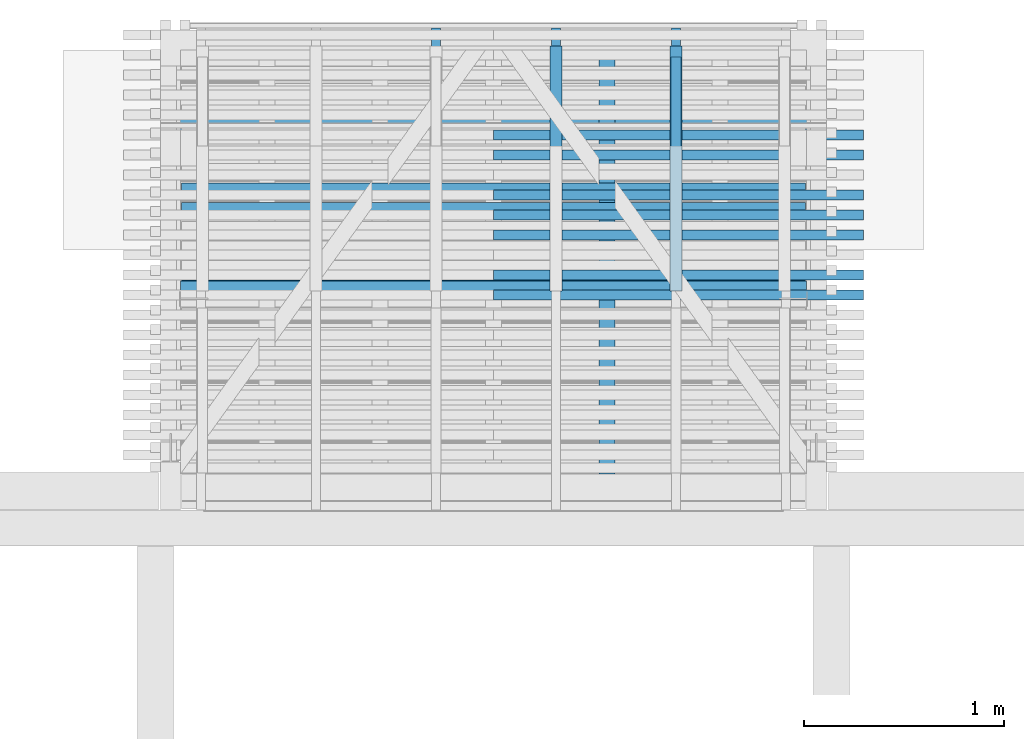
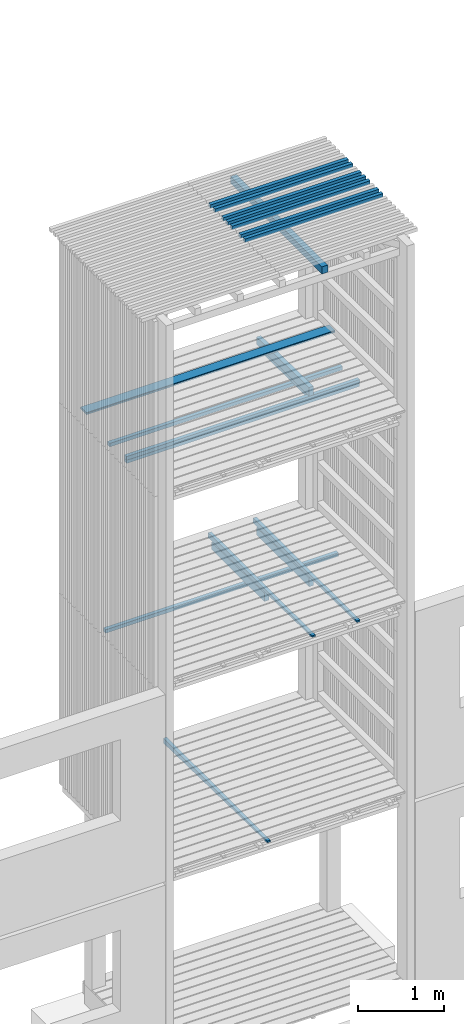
# One storey, part 25 of 182: 20 beams.
"""IFC2X3 building model written with IfcOpenShell, lengths in metres."""

from ifc_helpers import new_model, si_unit, frame, origin, place, context, project, spatial, faceted_brep, element, save


model = new_model("IFC2X3")

# Units and contexts
model_context = context("Model", 3, precision=1e-06, world=origin())
ifc_project = project(units=[si_unit("LENGTHUNIT", "METRE"), si_unit("PLANEANGLEUNIT", "RADIAN")], contexts=[model_context])

# Site, building, storey
site = spatial("IfcSite", under=ifc_project, CompositionType="ELEMENT")
building = spatial("IfcBuilding", under=site, CompositionType="ELEMENT")
storey = spatial("IfcBuildingStorey", under=building, Name="vs", CompositionType="ELEMENT", Elevation=-0.85)

# Beams
placement = place(None, origin())
beam_1_placement = place(placement, frame((6.829197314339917, 11.845077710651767, 10.47999999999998), z_axis=(0.0, 0.0, 1.0), x_axis=(-1.0, 0.0, 0.0)))
element("IfcBeam", 1, at=beam_1_placement, inside=storey, Name="Bardage", context=model_context, shape_type="Brep", body=[
    faceted_brep([(-3e-15, 0.025000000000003, 0.025000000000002), (-3e-15, -0.024999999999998, 0.025000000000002), (1.849999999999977, -0.024999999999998, 0.025000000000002), (1.849999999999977, 0.025000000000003, 0.025000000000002), (1.849999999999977, -0.024999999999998, 0.025000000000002), (-3e-15, -0.024999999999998, 0.025000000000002), (-3e-15, -0.024999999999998, -0.024999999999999), (1.849999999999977, -0.024999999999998, -0.024999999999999), (-3e-15, -0.024999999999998, 0.025000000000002), (-3e-15, 0.025000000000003, 0.025000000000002), (-3e-15, 0.025000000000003, -0.024999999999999), (-3e-15, -0.024999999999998, -0.024999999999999), (-3e-15, 0.025000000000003, -0.024999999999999), (-3e-15, 0.025000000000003, 0.025000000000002), (1.849999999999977, 0.025000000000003, 0.025000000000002), (1.849999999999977, 0.025000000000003, -0.024999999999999), (1.849999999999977, -0.024999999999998, -0.024999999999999), (-3e-15, -0.024999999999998, -0.024999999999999), (-3e-15, 0.025000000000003, -0.024999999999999), (1.849999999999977, 0.025000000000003, -0.024999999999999), (1.849999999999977, -0.024999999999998, 0.025000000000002), (1.849999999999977, -0.024999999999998, -0.024999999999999), (1.849999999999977, 0.025000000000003, -0.024999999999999), (1.849999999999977, 0.025000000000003, 0.025000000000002)], [[[0, 1, 2, 3]], [[4, 5, 6, 7]], [[8, 9, 10, 11]], [[12, 13, 14, 15]], [[16, 17, 18, 19]], [[20, 21, 22, 23]]]),
])
beam_2_placement = place(placement, frame((6.829197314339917, 12.34507771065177, 10.47999999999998), z_axis=(0.0, 0.0, 1.0), x_axis=(-1.0, 0.0, 0.0)))
element("IfcBeam", 2, at=beam_2_placement, inside=storey, Name="Bardage", context=model_context, shape_type="Brep", body=[
    faceted_brep([(-3e-15, 0.025000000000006, 0.025000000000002), (-3e-15, -0.024999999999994, 0.025000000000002), (1.849999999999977, -0.024999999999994, 0.025000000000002), (1.849999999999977, 0.025000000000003, 0.025000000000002), (1.849999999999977, -0.024999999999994, 0.025000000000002), (-3e-15, -0.024999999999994, 0.025000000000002), (-3e-15, -0.024999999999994, -0.024999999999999), (1.849999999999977, -0.024999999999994, -0.024999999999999), (-3e-15, -0.024999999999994, 0.025000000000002), (-3e-15, 0.025000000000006, 0.025000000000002), (-3e-15, 0.025000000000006, -0.024999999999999), (-3e-15, -0.024999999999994, -0.024999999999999), (-3e-15, 0.025000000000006, -0.024999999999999), (-3e-15, 0.025000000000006, 0.025000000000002), (1.849999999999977, 0.025000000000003, 0.025000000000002), (1.849999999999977, 0.025000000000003, -0.024999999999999), (1.849999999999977, -0.024999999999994, -0.024999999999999), (-3e-15, -0.024999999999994, -0.024999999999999), (-3e-15, 0.025000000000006, -0.024999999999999), (1.849999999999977, 0.025000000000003, -0.024999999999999), (1.849999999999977, -0.024999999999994, 0.025000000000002), (1.849999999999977, -0.024999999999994, -0.024999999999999), (1.849999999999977, 0.025000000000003, -0.024999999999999), (1.849999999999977, 0.025000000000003, 0.025000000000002)], [[[0, 1, 2, 3]], [[4, 5, 6, 7]], [[8, 9, 10, 11]], [[12, 13, 14, 15]], [[16, 17, 18, 19]], [[20, 21, 22, 23]]]),
])
beam_3_placement = place(placement, frame((6.829197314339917, 11.645077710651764, 10.47999999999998), z_axis=(0.0, 0.0, 1.0), x_axis=(-1.0, 0.0, 0.0)))
element("IfcBeam", 3, at=beam_3_placement, inside=storey, Name="Bardage", context=model_context, shape_type="Brep", body=[
    faceted_brep([(-3e-15, 0.024999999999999, 0.025000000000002), (-3e-15, -0.025000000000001, 0.025000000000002), (1.849999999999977, -0.025000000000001, 0.025000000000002), (1.849999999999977, 0.024999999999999, 0.025000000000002), (1.849999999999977, -0.025000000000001, 0.025000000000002), (-3e-15, -0.025000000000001, 0.025000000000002), (-3e-15, -0.025000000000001, -0.024999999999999), (1.849999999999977, -0.025000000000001, -0.024999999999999), (-3e-15, -0.025000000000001, 0.025000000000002), (-3e-15, 0.024999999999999, 0.025000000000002), (-3e-15, 0.024999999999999, -0.024999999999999), (-3e-15, -0.025000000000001, -0.024999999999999), (-3e-15, 0.024999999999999, -0.024999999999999), (-3e-15, 0.024999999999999, 0.025000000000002), (1.849999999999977, 0.024999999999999, 0.025000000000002), (1.849999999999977, 0.024999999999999, -0.024999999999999), (1.849999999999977, -0.025000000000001, -0.024999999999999), (-3e-15, -0.025000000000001, -0.024999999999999), (-3e-15, 0.024999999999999, -0.024999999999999), (1.849999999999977, 0.024999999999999, -0.024999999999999), (1.849999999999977, -0.025000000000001, 0.025000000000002), (1.849999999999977, -0.025000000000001, -0.024999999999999), (1.849999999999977, 0.024999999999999, -0.024999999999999), (1.849999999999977, 0.024999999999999, 0.025000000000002)], [[[0, 1, 2, 3]], [[4, 5, 6, 7]], [[8, 9, 10, 11]], [[12, 13, 14, 15]], [[16, 17, 18, 19]], [[20, 21, 22, 23]]]),
])
beam_4_placement = place(placement, frame((5.892197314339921, 11.565077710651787, 8.00424999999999), z_axis=(0.0, 0.0, 1.0), x_axis=(1.2e-14, 1.0, 0.0)))
element("IfcBeam", 4, at=beam_4_placement, inside=storey, Name="Solive", context=model_context, shape_type="Brep", body=[
    faceted_brep([(0.0, -0.029999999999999, -0.061849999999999), (1.225000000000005, -0.029999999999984, -0.061849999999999), (1.225000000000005, -0.029999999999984, 0.037349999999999), (0.0, -0.029999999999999, 0.061849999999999), (-1e-15, 0.030000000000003, -0.061849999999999), (1.225000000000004, 0.030000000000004, -0.061849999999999), (1.225000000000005, -0.029999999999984, -0.061849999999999), (0.0, -0.029999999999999, -0.061849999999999), (-1e-15, 0.030000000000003, 0.061850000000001), (-1e-15, 0.030000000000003, -0.061849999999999), (0.0, -0.029999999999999, -0.061849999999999), (0.0, -0.029999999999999, 0.061849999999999), (1.225000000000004, 0.030000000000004, -0.061849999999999), (-1e-15, 0.030000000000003, -0.061849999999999), (-1e-15, 0.030000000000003, 0.061850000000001), (1.225000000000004, 0.030000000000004, 0.037349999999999), (1.225000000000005, -0.029999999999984, 0.037349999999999), (1.225000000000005, -0.029999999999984, -0.061849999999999), (1.225000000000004, 0.030000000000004, -0.061849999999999), (1.225000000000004, 0.030000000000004, 0.037349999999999), (0.0, -0.029999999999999, 0.061849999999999), (1.225000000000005, -0.029999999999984, 0.037349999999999), (1.225000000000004, 0.030000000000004, 0.037349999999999), (-1e-15, 0.030000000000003, 0.061850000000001)], [[[0, 1, 2, 3]], [[4, 5, 6, 7]], [[8, 9, 10, 11]], [[12, 13, 14, 15]], [[16, 17, 18, 19]], [[20, 21, 22, 23]]]),
])
beam_5_placement = place(placement, frame((5.892197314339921, 11.565077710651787, 5.304249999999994), z_axis=(0.0, 0.0, 1.0), x_axis=(0.0, 1.0, 0.0)))
element("IfcBeam", 5, at=beam_5_placement, inside=storey, Name="Solive", context=model_context, shape_type="Brep", body=[
    faceted_brep([(0.0, -0.029999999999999, -0.061849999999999), (1.225000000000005, -0.029999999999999, -0.061849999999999), (1.225000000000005, -0.029999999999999, 0.03735), (0.0, -0.029999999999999, 0.06185), (0.0, 0.030000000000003, -0.061849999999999), (1.225000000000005, 0.029999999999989, -0.061849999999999), (1.225000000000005, -0.029999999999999, -0.061849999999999), (0.0, -0.029999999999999, -0.061849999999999), (0.0, 0.030000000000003, 0.061850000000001), (0.0, 0.030000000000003, -0.061849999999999), (0.0, -0.029999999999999, -0.061849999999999), (0.0, -0.029999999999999, 0.06185), (1.225000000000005, 0.029999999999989, -0.061849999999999), (0.0, 0.030000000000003, -0.061849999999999), (0.0, 0.030000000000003, 0.061850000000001), (1.225000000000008, 0.029999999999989, 0.03735), (1.225000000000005, -0.029999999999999, 0.03735), (1.225000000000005, -0.029999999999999, -0.061849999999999), (1.225000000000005, 0.029999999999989, -0.061849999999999), (1.225000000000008, 0.029999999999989, 0.03735), (0.0, -0.029999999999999, 0.06185), (1.225000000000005, -0.029999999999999, 0.03735), (1.225000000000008, 0.029999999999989, 0.03735), (0.0, 0.030000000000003, 0.061850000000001)], [[[0, 1, 2, 3]], [[4, 5, 6, 7]], [[8, 9, 10, 11]], [[12, 13, 14, 15]], [[16, 17, 18, 19]], [[20, 21, 22, 23]]]),
])
beam_6_placement = place(placement, frame((5.292197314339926, 11.565077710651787, 5.304249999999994), z_axis=(0.0, 0.0, 1.0), x_axis=(0.0, 1.0, 0.0)))
element("IfcBeam", 6, at=beam_6_placement, inside=storey, Name="Solive", context=model_context, shape_type="Brep", body=[
    faceted_brep([(0.0, -0.030000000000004, -0.061849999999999), (1.225000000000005, -0.030000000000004, -0.061849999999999), (1.225000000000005, -0.030000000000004, 0.03735), (0.0, -0.030000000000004, 0.06185), (0.0, 0.029999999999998, 0.061850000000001), (0.0, 0.029999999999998, -0.061849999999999), (0.0, -0.030000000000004, -0.061849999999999), (0.0, -0.030000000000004, 0.06185), (0.0, -0.030000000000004, -0.061849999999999), (0.0, 0.029999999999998, -0.061849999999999), (1.225000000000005, 0.029999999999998, -0.061849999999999), (1.225000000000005, -0.030000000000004, -0.061849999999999), (1.225000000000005, 0.029999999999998, -0.061849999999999), (0.0, 0.029999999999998, -0.061849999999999), (0.0, 0.029999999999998, 0.061850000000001), (1.225000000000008, 0.029999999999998, 0.03735), (1.225000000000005, -0.030000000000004, 0.03735), (1.225000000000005, -0.030000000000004, -0.061849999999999), (1.225000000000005, 0.029999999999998, -0.061849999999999), (1.225000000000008, 0.029999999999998, 0.03735), (0.0, -0.030000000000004, 0.06185), (1.225000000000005, -0.030000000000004, 0.03735), (1.225000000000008, 0.029999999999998, 0.03735), (0.0, 0.029999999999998, 0.061850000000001)], [[[0, 1, 2, 3]], [[4, 5, 6, 7]], [[8, 9, 10, 11]], [[12, 13, 14, 15]], [[16, 17, 18, 19]], [[20, 21, 22, 23]]]),
])
beam_7_placement = place(placement, frame((6.829197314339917, 11.945077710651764, 10.47999999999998), z_axis=(0.0, 0.0, 1.0), x_axis=(-1.0, 0.0, 0.0)))
element("IfcBeam", 7, at=beam_7_placement, inside=storey, Name="Bardage", context=model_context, shape_type="Brep", body=[
    faceted_brep([(-3e-15, 0.024999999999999, 0.025000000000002), (-3e-15, -0.025000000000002, 0.025000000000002), (1.849999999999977, -0.025000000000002, 0.025000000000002), (1.849999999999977, 0.024999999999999, 0.025000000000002), (1.849999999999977, -0.025000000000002, 0.025000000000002), (-3e-15, -0.025000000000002, 0.025000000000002), (-3e-15, -0.025000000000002, -0.024999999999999), (1.849999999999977, -0.025000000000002, -0.024999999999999), (-3e-15, -0.025000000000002, 0.025000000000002), (-3e-15, 0.024999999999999, 0.025000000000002), (-3e-15, 0.024999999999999, -0.024999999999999), (-3e-15, -0.025000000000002, -0.024999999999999), (-3e-15, 0.024999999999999, -0.024999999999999), (-3e-15, 0.024999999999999, 0.025000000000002), (1.849999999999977, 0.024999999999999, 0.025000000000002), (1.849999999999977, 0.024999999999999, -0.024999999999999), (1.849999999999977, -0.025000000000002, -0.024999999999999), (-3e-15, -0.025000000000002, -0.024999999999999), (-3e-15, 0.024999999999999, -0.024999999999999), (1.849999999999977, 0.024999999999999, -0.024999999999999), (1.849999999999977, -0.025000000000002, 0.025000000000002), (1.849999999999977, -0.025000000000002, -0.024999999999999), (1.849999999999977, 0.024999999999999, -0.024999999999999), (1.849999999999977, 0.024999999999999, 0.025000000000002)], [[[0, 1, 2, 3]], [[4, 5, 6, 7]], [[8, 9, 10, 11]], [[12, 13, 14, 15]], [[16, 17, 18, 19]], [[20, 21, 22, 23]]]),
])
beam_8_placement = place(placement, frame((6.829197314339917, 12.245077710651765, 10.47999999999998), z_axis=(0.0, 0.0, 1.0), x_axis=(-1.0, 0.0, 0.0)))
element("IfcBeam", 8, at=beam_8_placement, inside=storey, Name="Bardage", context=model_context, shape_type="Brep", body=[
    faceted_brep([(-3e-15, 0.024999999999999, 0.025000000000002), (-3e-15, -0.024999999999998, 0.025000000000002), (1.849999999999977, -0.024999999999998, 0.025000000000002), (1.849999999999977, 0.024999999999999, 0.025000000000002), (1.849999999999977, -0.024999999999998, 0.025000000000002), (-3e-15, -0.024999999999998, 0.025000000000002), (-3e-15, -0.024999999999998, -0.024999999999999), (1.849999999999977, -0.024999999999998, -0.024999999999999), (-3e-15, -0.024999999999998, 0.025000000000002), (-3e-15, 0.024999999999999, 0.025000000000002), (-3e-15, 0.024999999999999, -0.024999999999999), (-3e-15, -0.024999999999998, -0.024999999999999), (-3e-15, 0.024999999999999, -0.024999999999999), (-3e-15, 0.024999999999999, 0.025000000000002), (1.849999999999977, 0.024999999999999, 0.025000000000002), (1.849999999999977, 0.024999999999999, -0.024999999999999), (1.849999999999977, -0.024999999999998, -0.024999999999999), (-3e-15, -0.024999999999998, -0.024999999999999), (-3e-15, 0.024999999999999, -0.024999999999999), (1.849999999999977, 0.024999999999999, -0.024999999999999), (1.849999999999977, -0.024999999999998, 0.025000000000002), (1.849999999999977, -0.024999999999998, -0.024999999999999), (1.849999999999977, 0.024999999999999, -0.024999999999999), (1.849999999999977, 0.024999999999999, 0.025000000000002)], [[[0, 1, 2, 3]], [[4, 5, 6, 7]], [[8, 9, 10, 11]], [[12, 13, 14, 15]], [[16, 17, 18, 19]], [[20, 21, 22, 23]]]),
])
beam_9_placement = place(placement, frame((5.892197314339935, 12.735077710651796, 7.91739999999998), z_axis=(0.0, 0.0, 1.0), x_axis=(0.0, -1.0, 0.0)))
element("IfcBeam", 9, at=beam_9_placement, inside=storey, Name="Calage", context=model_context, shape_type="Brep", body=[
    faceted_brep([(0.0, -0.025000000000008, -0.025), (0.0, -0.025000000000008, 0.024999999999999), (0.0, 0.024999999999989, 0.024999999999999), (0.0, 0.024999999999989, -0.025), (1.115000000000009, 0.024999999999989, 0.024999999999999), (1.115000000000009, -0.025000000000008, 0.024999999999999), (1.115000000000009, -0.025000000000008, -0.025), (1.115000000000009, 0.024999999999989, -0.025), (0.0, 0.024999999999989, 0.024999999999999), (0.0, -0.025000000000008, 0.024999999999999), (1.115000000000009, -0.025000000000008, 0.024999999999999), (1.115000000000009, 0.024999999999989, 0.024999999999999), (1.115000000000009, -0.025000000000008, 0.024999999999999), (0.0, -0.025000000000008, 0.024999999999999), (0.0, -0.025000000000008, -0.025), (1.115000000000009, -0.025000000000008, -0.025), (1.115000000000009, -0.025000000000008, -0.025), (0.0, -0.025000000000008, -0.025), (0.0, 0.024999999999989, -0.025), (1.115000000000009, 0.024999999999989, -0.025), (1.115000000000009, 0.024999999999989, -0.025), (0.0, 0.024999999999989, -0.025), (0.0, 0.024999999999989, 0.024999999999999), (1.115000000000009, 0.024999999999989, 0.024999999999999)], [[[0, 1, 2, 3]], [[4, 5, 6, 7]], [[8, 9, 10, 11]], [[12, 13, 14, 15]], [[16, 17, 18, 19]], [[20, 21, 22, 23]]]),
])
beam_10_placement = place(placement, frame((5.892197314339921, 10.470077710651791, 5.384400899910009), z_axis=(0.0, 0.0, 1.0), x_axis=(0.0, 1.0, 0.0)))
element("IfcBeam", 10, at=beam_10_placement, inside=storey, Name="Calage", context=model_context, shape_type="Brep", body=[
    faceted_brep([(2.410000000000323, -0.022500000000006, -0.035599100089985), (0.0, -0.022500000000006, 0.012600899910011), (0.0, 0.022499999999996, 0.012600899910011), (2.410000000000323, 0.022499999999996, -0.035599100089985), (0.0, 0.022499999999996, 0.035599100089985), (0.0, 0.022499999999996, 0.012600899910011), (0.0, -0.022500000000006, 0.012600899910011), (0.0, -0.022500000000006, 0.035599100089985), (2.410000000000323, 0.022499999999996, -0.035599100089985), (0.0, 0.022499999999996, 0.012600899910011), (0.0, 0.022499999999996, 0.035599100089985), (2.410000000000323, 0.022499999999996, 0.035599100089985), (2.410000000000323, -0.022500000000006, 0.035599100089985), (0.0, -0.022500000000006, 0.035599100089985), (0.0, -0.022500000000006, 0.012600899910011), (2.410000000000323, -0.022500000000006, -0.035599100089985), (2.410000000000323, 0.022499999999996, 0.035599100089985), (0.0, 0.022499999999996, 0.035599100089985), (0.0, -0.022500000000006, 0.035599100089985), (2.410000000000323, -0.022500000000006, 0.035599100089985), (2.410000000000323, 0.022499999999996, -0.035599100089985), (2.410000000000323, 0.022499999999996, 0.035599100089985), (2.410000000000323, -0.022500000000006, 0.035599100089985), (2.410000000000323, -0.022500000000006, -0.035599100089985)], [[[0, 1, 2, 3]], [[4, 5, 6, 7]], [[8, 9, 10, 11]], [[12, 13, 14, 15]], [[16, 17, 18, 19]], [[20, 21, 22, 23]]]),
])
beam_11_placement = place(placement, frame((6.829197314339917, 12.045077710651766, 10.47999999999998), z_axis=(0.0, 0.0, 1.0), x_axis=(-1.0, 0.0, 0.0)))
element("IfcBeam", 11, at=beam_11_placement, inside=storey, Name="Bardage", context=model_context, shape_type="Brep", body=[
    faceted_brep([(-3e-15, 0.025000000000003, 0.025000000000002), (-3e-15, -0.024999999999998, 0.025000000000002), (1.849999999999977, -0.025000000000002, 0.025000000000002), (1.849999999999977, 0.025000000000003, 0.025000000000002), (1.849999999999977, -0.025000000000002, 0.025000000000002), (-3e-15, -0.024999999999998, 0.025000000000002), (-3e-15, -0.024999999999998, -0.024999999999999), (1.849999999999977, -0.025000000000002, -0.024999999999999), (-3e-15, -0.024999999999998, 0.025000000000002), (-3e-15, 0.025000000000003, 0.025000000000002), (-3e-15, 0.025000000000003, -0.024999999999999), (-3e-15, -0.024999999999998, -0.024999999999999), (-3e-15, 0.025000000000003, -0.024999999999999), (-3e-15, 0.025000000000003, 0.025000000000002), (1.849999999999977, 0.025000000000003, 0.025000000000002), (1.849999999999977, 0.025000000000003, -0.024999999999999), (1.849999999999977, -0.025000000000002, -0.024999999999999), (-3e-15, -0.024999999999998, -0.024999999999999), (-3e-15, 0.025000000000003, -0.024999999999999), (1.849999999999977, 0.025000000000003, -0.024999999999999), (1.849999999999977, -0.025000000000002, 0.025000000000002), (1.849999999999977, -0.025000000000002, -0.024999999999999), (1.849999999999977, 0.025000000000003, -0.024999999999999), (1.849999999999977, 0.025000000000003, 0.025000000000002)], [[[0, 1, 2, 3]], [[4, 5, 6, 7]], [[8, 9, 10, 11]], [[12, 13, 14, 15]], [[16, 17, 18, 19]], [[20, 21, 22, 23]]]),
])
beam_12_placement = place(placement, frame((5.545863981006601, 10.650077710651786, 10.404999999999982), z_axis=(0.0, 0.0, 1.0), x_axis=(0.0, 1.0, 0.0)))
element("IfcBeam", 12, at=beam_12_placement, inside=storey, Name="Support bardage", context=model_context, shape_type="Brep", body=[
    faceted_brep([(2.120000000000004, -0.039999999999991, 0.050000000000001), (2.120000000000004, 0.040000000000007, 0.050000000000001), (3e-15, 0.040000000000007, 0.050000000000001), (3e-15, -0.039999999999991, 0.050000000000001), (3e-15, 0.040000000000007, 0.050000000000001), (2.120000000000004, 0.040000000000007, 0.050000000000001), (2.120000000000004, 0.040000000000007, -0.050000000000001), (3e-15, 0.040000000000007, -0.050000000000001), (2.120000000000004, 0.040000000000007, 0.050000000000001), (2.120000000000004, -0.039999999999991, 0.050000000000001), (2.120000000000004, -0.039999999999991, -0.050000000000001), (2.120000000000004, 0.040000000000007, -0.050000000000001), (2.120000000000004, -0.039999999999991, -0.050000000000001), (2.120000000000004, -0.039999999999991, 0.050000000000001), (3e-15, -0.039999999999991, 0.050000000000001), (3e-15, -0.039999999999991, -0.050000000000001), (3e-15, 0.040000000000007, -0.050000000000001), (2.120000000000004, 0.040000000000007, -0.050000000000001), (2.120000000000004, -0.039999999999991, -0.050000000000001), (3e-15, -0.039999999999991, -0.050000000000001), (3e-15, 0.040000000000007, 0.050000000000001), (3e-15, 0.040000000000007, -0.050000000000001), (3e-15, -0.039999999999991, -0.050000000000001), (3e-15, -0.039999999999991, 0.050000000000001)], [[[0, 1, 2, 3]], [[4, 5, 6, 7]], [[8, 9, 10, 11]], [[12, 13, 14, 15]], [[16, 17, 18, 19]], [[20, 21, 22, 23]]]),
])
beam_13_placement = place(placement, frame((5.292197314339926, 10.470077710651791, 5.384400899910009), z_axis=(0.0, 0.0, 1.0), x_axis=(0.0, 1.0, 0.0)))
element("IfcBeam", 13, at=beam_13_placement, inside=storey, Name="Calage", context=model_context, shape_type="Brep", body=[
    faceted_brep([(2.410000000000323, -0.022499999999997, -0.035599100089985), (0.0, -0.022499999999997, 0.012600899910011), (0.0, 0.022500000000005, 0.012600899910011), (2.410000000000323, 0.02249999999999, -0.035599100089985), (0.0, 0.022500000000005, 0.035599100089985), (0.0, 0.022500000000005, 0.012600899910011), (0.0, -0.022499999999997, 0.012600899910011), (0.0, -0.022499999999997, 0.035599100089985), (2.410000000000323, 0.02249999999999, -0.035599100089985), (0.0, 0.022500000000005, 0.012600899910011), (0.0, 0.022500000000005, 0.035599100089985), (2.410000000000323, 0.022500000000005, 0.035599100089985), (2.410000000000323, -0.022499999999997, 0.035599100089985), (0.0, -0.022499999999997, 0.035599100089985), (0.0, -0.022499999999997, 0.012600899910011), (2.410000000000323, -0.022499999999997, -0.035599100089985), (2.410000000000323, 0.022500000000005, 0.035599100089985), (0.0, 0.022500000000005, 0.035599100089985), (0.0, -0.022499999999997, 0.035599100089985), (2.410000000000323, -0.022499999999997, 0.035599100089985), (2.410000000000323, 0.02249999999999, -0.035599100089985), (2.410000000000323, 0.022500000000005, 0.035599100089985), (2.410000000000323, -0.022499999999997, 0.035599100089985), (2.410000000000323, -0.022499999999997, -0.035599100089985)], [[[0, 1, 2, 3]], [[4, 5, 6, 7]], [[8, 9, 10, 11]], [[12, 13, 14, 15]], [[16, 17, 18, 19]], [[20, 21, 22, 23]]]),
])
beam_14_placement = place(placement, frame((6.829197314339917, 11.545077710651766, 10.47999999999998), z_axis=(0.0, 0.0, 1.0), x_axis=(-1.0, 0.0, 0.0)))
element("IfcBeam", 14, at=beam_14_placement, inside=storey, Name="Bardage", context=model_context, shape_type="Brep", body=[
    faceted_brep([(-3e-15, 0.025000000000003, 0.025000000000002), (-3e-15, -0.024999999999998, 0.025000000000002), (1.849999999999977, -0.024999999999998, 0.025000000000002), (1.849999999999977, 0.025000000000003, 0.025000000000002), (1.849999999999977, -0.024999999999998, 0.025000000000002), (-3e-15, -0.024999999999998, 0.025000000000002), (-3e-15, -0.024999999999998, -0.024999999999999), (1.849999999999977, -0.024999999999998, -0.024999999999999), (-3e-15, -0.024999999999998, 0.025000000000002), (-3e-15, 0.025000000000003, 0.025000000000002), (-3e-15, 0.025000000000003, -0.024999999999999), (-3e-15, -0.024999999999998, -0.024999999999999), (-3e-15, 0.025000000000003, -0.024999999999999), (-3e-15, 0.025000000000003, 0.025000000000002), (1.849999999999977, 0.025000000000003, 0.025000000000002), (1.849999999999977, 0.025000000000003, -0.024999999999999), (1.849999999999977, -0.024999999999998, -0.024999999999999), (-3e-15, -0.024999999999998, -0.024999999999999), (-3e-15, 0.025000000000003, -0.024999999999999), (1.849999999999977, 0.025000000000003, -0.024999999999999), (1.849999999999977, -0.024999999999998, 0.025000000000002), (1.849999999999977, -0.024999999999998, -0.024999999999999), (1.849999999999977, 0.025000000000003, -0.024999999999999), (1.849999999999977, 0.025000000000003, 0.025000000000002)], [[[0, 1, 2, 3]], [[4, 5, 6, 7]], [[8, 9, 10, 11]], [[12, 13, 14, 15]], [[16, 17, 18, 19]], [[20, 21, 22, 23]]]),
])
beam_15_placement = place(placement, frame((4.692197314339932, 10.470077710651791, 2.684400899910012), z_axis=(0.0, 0.0, 1.0), x_axis=(0.0, 1.0, 0.0)))
element("IfcBeam", 15, at=beam_15_placement, inside=storey, Name="Calage", context=model_context, shape_type="Brep", body=[
    faceted_brep([(2.410000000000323, -0.022499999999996, -0.035599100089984), (0.0, -0.022499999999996, 0.012600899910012), (0.0, 0.022500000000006, 0.012600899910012), (2.410000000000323, 0.022500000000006, -0.035599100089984), (0.0, 0.022500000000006, 0.035599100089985), (0.0, 0.022500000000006, 0.012600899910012), (0.0, -0.022499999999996, 0.012600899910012), (0.0, -0.022499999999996, 0.035599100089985), (2.410000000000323, 0.022500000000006, -0.035599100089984), (0.0, 0.022500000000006, 0.012600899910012), (0.0, 0.022500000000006, 0.035599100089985), (2.410000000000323, 0.022500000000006, 0.035599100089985), (2.410000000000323, -0.022499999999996, 0.035599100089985), (0.0, -0.022499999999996, 0.035599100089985), (0.0, -0.022499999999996, 0.012600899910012), (2.410000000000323, -0.022499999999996, -0.035599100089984), (2.410000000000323, 0.022500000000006, 0.035599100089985), (0.0, 0.022500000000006, 0.035599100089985), (0.0, -0.022499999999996, 0.035599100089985), (2.410000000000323, -0.022499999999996, 0.035599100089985), (2.410000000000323, 0.022500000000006, -0.035599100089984), (2.410000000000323, 0.022500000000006, 0.035599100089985), (2.410000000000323, -0.022499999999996, 0.035599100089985), (2.410000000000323, -0.022499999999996, -0.035599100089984)], [[[0, 1, 2, 3]], [[4, 5, 6, 7]], [[8, 9, 10, 11]], [[12, 13, 14, 15]], [[16, 17, 18, 19]], [[20, 21, 22, 23]]]),
])
beam_16_placement = place(placement, frame((6.539197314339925, 11.595077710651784, 7.86739999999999), z_axis=(0.0, 0.0, 1.0), x_axis=(-1.0, 0.0, 0.0)))
element("IfcBeam", 16, at=beam_16_placement, inside=storey, Name="Bardage", context=model_context, shape_type="Brep", body=[
    faceted_brep([(-3e-15, 0.024999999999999, -0.024999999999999), (-3e-15, -0.025000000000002, -0.024999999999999), (-3e-15, -0.025000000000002, 0.025000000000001), (-3e-15, 0.024999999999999, 0.025000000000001), (3.120000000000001, -0.025000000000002, 0.025000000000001), (3.120000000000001, -0.025000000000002, -0.024999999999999), (3.120000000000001, 0.025000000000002, -0.024999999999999), (3.120000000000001, 0.025000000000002, 0.025000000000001), (3.120000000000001, -0.025000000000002, -0.024999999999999), (3.120000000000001, -0.025000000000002, 0.025000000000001), (-3e-15, -0.025000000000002, 0.025000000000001), (-3e-15, -0.025000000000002, -0.024999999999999), (3.120000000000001, 0.025000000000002, -0.024999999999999), (3.120000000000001, -0.025000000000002, -0.024999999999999), (-3e-15, -0.025000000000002, -0.024999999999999), (-3e-15, 0.024999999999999, -0.024999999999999), (3.120000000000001, 0.025000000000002, 0.025000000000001), (3.120000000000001, 0.025000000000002, -0.024999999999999), (-3e-15, 0.024999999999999, -0.024999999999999), (-3e-15, 0.024999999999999, 0.025000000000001), (3.120000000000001, -0.025000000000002, 0.025000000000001), (3.120000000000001, 0.025000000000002, 0.025000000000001), (-3e-15, 0.024999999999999, 0.025000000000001), (-3e-15, -0.025000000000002, 0.025000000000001)], [[[0, 1, 2, 3]], [[4, 5, 6, 7]], [[8, 9, 10, 11]], [[12, 13, 14, 15]], [[16, 17, 18, 19]], [[20, 21, 22, 23]]]),
])
beam_17_placement = place(placement, frame((6.539197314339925, 11.98341104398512, 7.86739999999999), z_axis=(0.0, 0.0, 1.0), x_axis=(-1.0, 0.0, 0.0)))
element("IfcBeam", 17, at=beam_17_placement, inside=storey, Name="Bardage", context=model_context, shape_type="Brep", body=[
    faceted_brep([(3.120000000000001, 0.025000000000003, -0.024999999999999), (3.120000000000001, 0.025000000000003, 0.025000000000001), (3.120000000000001, -0.025000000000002, 0.025000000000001), (3.120000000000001, -0.025000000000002, -0.024999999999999), (-3e-15, -0.025000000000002, -0.024999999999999), (-3e-15, -0.025000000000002, 0.025000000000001), (-3e-15, 0.024999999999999, 0.025000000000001), (-3e-15, 0.024999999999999, -0.024999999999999), (-3e-15, 0.024999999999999, -0.024999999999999), (-3e-15, 0.024999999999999, 0.025000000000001), (3.120000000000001, 0.025000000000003, 0.025000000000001), (3.120000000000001, 0.025000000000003, -0.024999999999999), (-3e-15, 0.024999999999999, 0.025000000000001), (-3e-15, -0.025000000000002, 0.025000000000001), (3.120000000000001, -0.025000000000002, 0.025000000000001), (3.120000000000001, 0.025000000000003, 0.025000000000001), (-3e-15, -0.025000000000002, 0.025000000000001), (-3e-15, -0.025000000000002, -0.024999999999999), (3.120000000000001, -0.025000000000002, -0.024999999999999), (3.120000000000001, -0.025000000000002, 0.025000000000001), (-3e-15, -0.025000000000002, -0.024999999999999), (-3e-15, 0.024999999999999, -0.024999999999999), (3.120000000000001, 0.025000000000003, -0.024999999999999), (3.120000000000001, -0.025000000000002, -0.024999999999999)], [[[0, 1, 2, 3]], [[4, 5, 6, 7]], [[8, 9, 10, 11]], [[12, 13, 14, 15]], [[16, 17, 18, 19]], [[20, 21, 22, 23]]]),
])
beam_18_placement = place(placement, frame((6.644197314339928, 12.38457771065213, 8.13349999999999), z_axis=(0.0, 0.0, 1.0), x_axis=(-1.0, -1e-14, 0.0)))
element("IfcBeam", 18, at=beam_18_placement, inside=storey, Name="Caillebotis", context=model_context, shape_type="Brep", body=[
    faceted_brep([(3.329999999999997, -0.072500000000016, -0.013500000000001), (3.329999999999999, 0.072499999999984, -0.013500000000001), (3.329999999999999, 0.072499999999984, 0.008499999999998), (3.329999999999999, 0.067499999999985, 0.013499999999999), (3.329999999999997, -0.067500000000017, 0.013499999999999), (3.329999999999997, -0.072500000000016, 0.0085), (-1e-15, -0.072499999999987, 0.0085), (-1e-15, -0.067499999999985, 0.013499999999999), (1e-15, 0.067500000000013, 0.013499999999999), (1e-15, 0.072500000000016, 0.008499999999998), (1e-15, 0.072500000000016, -0.013500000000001), (-1e-15, -0.072499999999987, -0.013500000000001), (3.329999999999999, 0.072499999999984, 0.008499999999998), (3.329999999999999, 0.072499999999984, -0.013500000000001), (1e-15, 0.072500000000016, -0.013500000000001), (1e-15, 0.072500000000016, 0.008499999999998), (3.329999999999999, 0.067499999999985, 0.013499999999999), (3.329999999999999, 0.072499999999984, 0.008499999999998), (1e-15, 0.072500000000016, 0.008499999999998), (1e-15, 0.067500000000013, 0.013499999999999), (3.329999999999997, -0.067500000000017, 0.013499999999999), (3.329999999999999, 0.067499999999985, 0.013499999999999), (1e-15, 0.067500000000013, 0.013499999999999), (-1e-15, -0.067499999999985, 0.013499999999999), (3.329999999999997, -0.072500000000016, 0.0085), (3.329999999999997, -0.067500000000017, 0.013499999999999), (-1e-15, -0.067499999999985, 0.013499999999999), (-1e-15, -0.072499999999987, 0.0085), (3.329999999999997, -0.072500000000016, -0.013500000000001), (3.329999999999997, -0.072500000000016, 0.0085), (-1e-15, -0.072499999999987, 0.0085), (-1e-15, -0.072499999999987, -0.013500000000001), (1e-15, 0.072500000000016, -0.013500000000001), (3.329999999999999, 0.072499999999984, -0.013500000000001), (3.329999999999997, -0.072500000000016, -0.013500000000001), (-1e-15, -0.072499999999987, -0.013500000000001)], [[[0, 1, 2, 3, 4, 5]], [[6, 7, 8, 9, 10, 11]], [[12, 13, 14, 15]], [[16, 17, 18, 19]], [[20, 21, 22, 23]], [[24, 25, 26, 27]], [[28, 29, 30, 31]], [[32, 33, 34, 35]]]),
])
beam_19_placement = place(placement, frame((3.414197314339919, 11.59007771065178, 7.917399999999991), z_axis=(0.0, 0.0, 1.0), x_axis=(1.0, 0.0, 0.0)))
element("IfcBeam", 19, at=beam_19_placement, inside=storey, Name="Ligneul", context=model_context, shape_type="Brep", body=[
    faceted_brep([(4e-15, -0.024999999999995, 0.024999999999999), (4e-15, -0.024999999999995, -0.025000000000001), (3.129999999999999, -0.024999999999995, -0.025000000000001), (3.129999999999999, -0.024999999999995, 0.024999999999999), (4e-15, 0.025000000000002, 0.024999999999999), (4e-15, -0.024999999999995, 0.024999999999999), (3.129999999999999, -0.024999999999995, 0.024999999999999), (3.129999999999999, 0.025000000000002, 0.024999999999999), (4e-15, -0.024999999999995, 0.024999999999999), (4e-15, 0.025000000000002, 0.024999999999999), (4e-15, 0.025000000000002, -0.025000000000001), (4e-15, -0.024999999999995, -0.025000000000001), (4e-15, 0.025000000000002, -0.025000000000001), (4e-15, 0.025000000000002, 0.024999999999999), (3.129999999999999, 0.025000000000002, 0.024999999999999), (3.129999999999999, 0.025000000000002, -0.025000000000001), (3.129999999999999, -0.024999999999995, -0.025000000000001), (4e-15, -0.024999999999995, -0.025000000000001), (4e-15, 0.025000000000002, -0.025000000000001), (3.129999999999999, 0.025000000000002, -0.025000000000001), (3.129999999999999, -0.024999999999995, 0.024999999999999), (3.129999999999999, -0.024999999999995, -0.025000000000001), (3.129999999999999, 0.025000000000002, -0.025000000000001), (3.129999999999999, 0.025000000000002, 0.024999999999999)], [[[0, 1, 2, 3]], [[4, 5, 6, 7]], [[8, 9, 10, 11]], [[12, 13, 14, 15]], [[16, 17, 18, 19]], [[20, 21, 22, 23]]]),
])
beam_20_placement = place(placement, frame((6.539197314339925, 12.080494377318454, 5.167399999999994), z_axis=(0.0, 0.0, 1.0), x_axis=(-1.0, 0.0, 0.0)))
element("IfcBeam", 20, at=beam_20_placement, inside=storey, Name="Bardage", context=model_context, shape_type="Brep", body=[
    faceted_brep([(3.120000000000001, 0.024999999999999, -0.024999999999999), (3.120000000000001, 0.024999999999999, 0.024999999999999), (3.120000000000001, -0.024999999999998, 0.024999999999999), (3.120000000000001, -0.024999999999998, -0.024999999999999), (-3e-15, -0.025000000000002, -0.024999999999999), (-3e-15, -0.025000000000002, 0.024999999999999), (-3e-15, 0.024999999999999, 0.024999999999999), (-3e-15, 0.024999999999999, -0.024999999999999), (-3e-15, 0.024999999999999, -0.024999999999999), (-3e-15, 0.024999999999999, 0.024999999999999), (3.120000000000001, 0.024999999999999, 0.024999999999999), (3.120000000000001, 0.024999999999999, -0.024999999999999), (-3e-15, 0.024999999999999, 0.024999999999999), (-3e-15, -0.025000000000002, 0.024999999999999), (3.120000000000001, -0.024999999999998, 0.024999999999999), (3.120000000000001, 0.024999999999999, 0.024999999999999), (-3e-15, -0.025000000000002, 0.024999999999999), (-3e-15, -0.025000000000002, -0.024999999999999), (3.120000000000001, -0.024999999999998, -0.024999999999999), (3.120000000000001, -0.024999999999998, 0.024999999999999), (-3e-15, -0.025000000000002, -0.024999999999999), (-3e-15, 0.024999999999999, -0.024999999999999), (3.120000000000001, 0.024999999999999, -0.024999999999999), (3.120000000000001, -0.024999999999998, -0.024999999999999)], [[[0, 1, 2, 3]], [[4, 5, 6, 7]], [[8, 9, 10, 11]], [[12, 13, 14, 15]], [[16, 17, 18, 19]], [[20, 21, 22, 23]]]),
])

save(model, "model.ifc")
